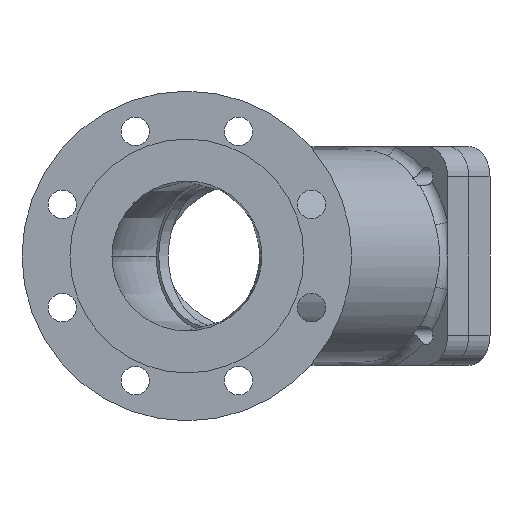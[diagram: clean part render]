
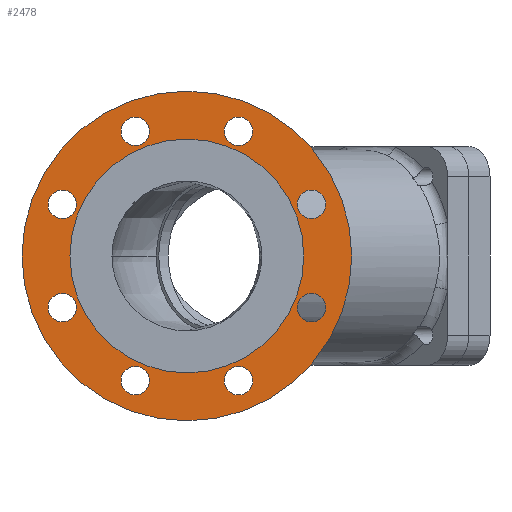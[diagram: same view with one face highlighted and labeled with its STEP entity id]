
A CAD part, left-side view. The second image highlights one B-rep face of the part: STEP entity #2478.
In plain terms, the highlighted planar face has unit normal (-1, 0, 0).
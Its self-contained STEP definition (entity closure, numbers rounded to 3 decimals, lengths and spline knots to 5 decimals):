
#114=PLANE('',#2791);
#157=FACE_BOUND('',#449,.T.);
#158=FACE_BOUND('',#450,.T.);
#159=FACE_BOUND('',#451,.T.);
#160=FACE_BOUND('',#452,.T.);
#161=FACE_BOUND('',#453,.T.);
#162=FACE_BOUND('',#454,.T.);
#163=FACE_BOUND('',#455,.T.);
#164=FACE_BOUND('',#456,.T.);
#165=FACE_BOUND('',#457,.T.);
#278=FACE_OUTER_BOUND('',#448,.T.);
#448=EDGE_LOOP('',(#2083));
#449=EDGE_LOOP('',(#2084));
#450=EDGE_LOOP('',(#2085));
#451=EDGE_LOOP('',(#2086));
#452=EDGE_LOOP('',(#2087));
#453=EDGE_LOOP('',(#2088));
#454=EDGE_LOOP('',(#2089));
#455=EDGE_LOOP('',(#2090));
#456=EDGE_LOOP('',(#2091));
#457=EDGE_LOOP('',(#2092));
#774=CIRCLE('',#2662,0.0095);
#776=CIRCLE('',#2665,0.0095);
#778=CIRCLE('',#2668,0.0095);
#780=CIRCLE('',#2671,0.0095);
#782=CIRCLE('',#2674,0.0095);
#784=CIRCLE('',#2677,0.0095);
#786=CIRCLE('',#2680,0.0095);
#788=CIRCLE('',#2683,0.0095);
#849=CIRCLE('',#2790,0.078);
#850=CIRCLE('',#2792,0.11);
#1073=VERTEX_POINT('',#6210);
#1075=VERTEX_POINT('',#6216);
#1077=VERTEX_POINT('',#6222);
#1079=VERTEX_POINT('',#6228);
#1081=VERTEX_POINT('',#6234);
#1083=VERTEX_POINT('',#6240);
#1085=VERTEX_POINT('',#6246);
#1087=VERTEX_POINT('',#6252);
#1196=VERTEX_POINT('',#16260);
#1197=VERTEX_POINT('',#16264);
#1335=EDGE_CURVE('',#1073,#1073,#774,.T.);
#1338=EDGE_CURVE('',#1075,#1075,#776,.T.);
#1341=EDGE_CURVE('',#1077,#1077,#778,.T.);
#1344=EDGE_CURVE('',#1079,#1079,#780,.T.);
#1347=EDGE_CURVE('',#1081,#1081,#782,.T.);
#1350=EDGE_CURVE('',#1083,#1083,#784,.T.);
#1353=EDGE_CURVE('',#1085,#1085,#786,.T.);
#1356=EDGE_CURVE('',#1087,#1087,#788,.T.);
#1531=EDGE_CURVE('',#1196,#1196,#849,.T.);
#1532=EDGE_CURVE('',#1197,#1197,#850,.T.);
#2083=ORIENTED_EDGE('',*,*,#1532,.T.);
#2084=ORIENTED_EDGE('',*,*,#1531,.F.);
#2085=ORIENTED_EDGE('',*,*,#1356,.F.);
#2086=ORIENTED_EDGE('',*,*,#1353,.F.);
#2087=ORIENTED_EDGE('',*,*,#1350,.F.);
#2088=ORIENTED_EDGE('',*,*,#1347,.F.);
#2089=ORIENTED_EDGE('',*,*,#1344,.F.);
#2090=ORIENTED_EDGE('',*,*,#1341,.F.);
#2091=ORIENTED_EDGE('',*,*,#1338,.F.);
#2092=ORIENTED_EDGE('',*,*,#1335,.F.);
#2478=ADVANCED_FACE('',(#278,#157,#158,#159,#160,#161,#162,#163,#164,#165),
#114,.T.);
#2662=AXIS2_PLACEMENT_3D('',#6212,#3034,#3035);
#2665=AXIS2_PLACEMENT_3D('',#6218,#3041,#3042);
#2668=AXIS2_PLACEMENT_3D('',#6224,#3048,#3049);
#2671=AXIS2_PLACEMENT_3D('',#6230,#3055,#3056);
#2674=AXIS2_PLACEMENT_3D('',#6236,#3062,#3063);
#2677=AXIS2_PLACEMENT_3D('',#6242,#3069,#3070);
#2680=AXIS2_PLACEMENT_3D('',#6248,#3076,#3077);
#2683=AXIS2_PLACEMENT_3D('',#6254,#3083,#3084);
#2790=AXIS2_PLACEMENT_3D('',#16262,#3338,#3339);
#2791=AXIS2_PLACEMENT_3D('',#16263,#3340,#3341);
#2792=AXIS2_PLACEMENT_3D('',#16265,#3342,#3343);
#3034=DIRECTION('center_axis',(-1.,0.,0.));
#3035=DIRECTION('ref_axis',(0.,-0.707,0.707));
#3041=DIRECTION('center_axis',(-1.,0.,0.));
#3042=DIRECTION('ref_axis',(0.,-1.,0.));
#3048=DIRECTION('center_axis',(-1.,0.,0.));
#3049=DIRECTION('ref_axis',(0.,-0.707,-0.707));
#3055=DIRECTION('center_axis',(-1.,0.,0.));
#3056=DIRECTION('ref_axis',(0.,0.,-1.));
#3062=DIRECTION('center_axis',(-1.,0.,0.));
#3063=DIRECTION('ref_axis',(0.,0.707,-0.707));
#3069=DIRECTION('center_axis',(-1.,0.,0.));
#3070=DIRECTION('ref_axis',(0.,1.,0.));
#3076=DIRECTION('center_axis',(-1.,0.,0.));
#3077=DIRECTION('ref_axis',(0.,0.707,0.707));
#3083=DIRECTION('center_axis',(-1.,0.,0.));
#3084=DIRECTION('ref_axis',(0.,0.,1.));
#3338=DIRECTION('center_axis',(-1.,0.,0.));
#3339=DIRECTION('ref_axis',(0.,0.,1.));
#3340=DIRECTION('center_axis',(-1.,0.,0.));
#3341=DIRECTION('ref_axis',(0.,0.,1.));
#3342=DIRECTION('center_axis',(-1.,0.,0.));
#3343=DIRECTION('ref_axis',(0.,0.,1.));
#6210=CARTESIAN_POINT('',(-0.172,0.08315,0.02494));
#6212=CARTESIAN_POINT('Origin',(-0.172,0.08315,0.03444));
#6216=CARTESIAN_POINT('',(-0.172,0.03444,0.07365));
#6218=CARTESIAN_POINT('Origin',(-0.172,0.03444,0.08315));
#6222=CARTESIAN_POINT('',(-0.172,-0.03444,0.07365));
#6224=CARTESIAN_POINT('Origin',(-0.172,-0.03444,0.08315));
#6228=CARTESIAN_POINT('',(-0.172,-0.08315,0.02494));
#6230=CARTESIAN_POINT('Origin',(-0.172,-0.08315,0.03444));
#6234=CARTESIAN_POINT('',(-0.172,-0.08315,-0.04394));
#6236=CARTESIAN_POINT('Origin',(-0.172,-0.08315,-0.03444));
#6240=CARTESIAN_POINT('',(-0.172,-0.03444,-0.09265));
#6242=CARTESIAN_POINT('Origin',(-0.172,-0.03444,-0.08315));
#6246=CARTESIAN_POINT('',(-0.172,0.03444,-0.09265));
#6248=CARTESIAN_POINT('Origin',(-0.172,0.03444,-0.08315));
#6252=CARTESIAN_POINT('',(-0.172,0.08315,-0.04394));
#6254=CARTESIAN_POINT('Origin',(-0.172,0.08315,-0.03444));
#16260=CARTESIAN_POINT('',(-0.172,0.,-0.078));
#16262=CARTESIAN_POINT('Origin',(-0.172,0.,0.));
#16263=CARTESIAN_POINT('Origin',(-0.172,0.078,0.));
#16264=CARTESIAN_POINT('',(-0.172,0.,-0.11));
#16265=CARTESIAN_POINT('Origin',(-0.172,0.,0.));
